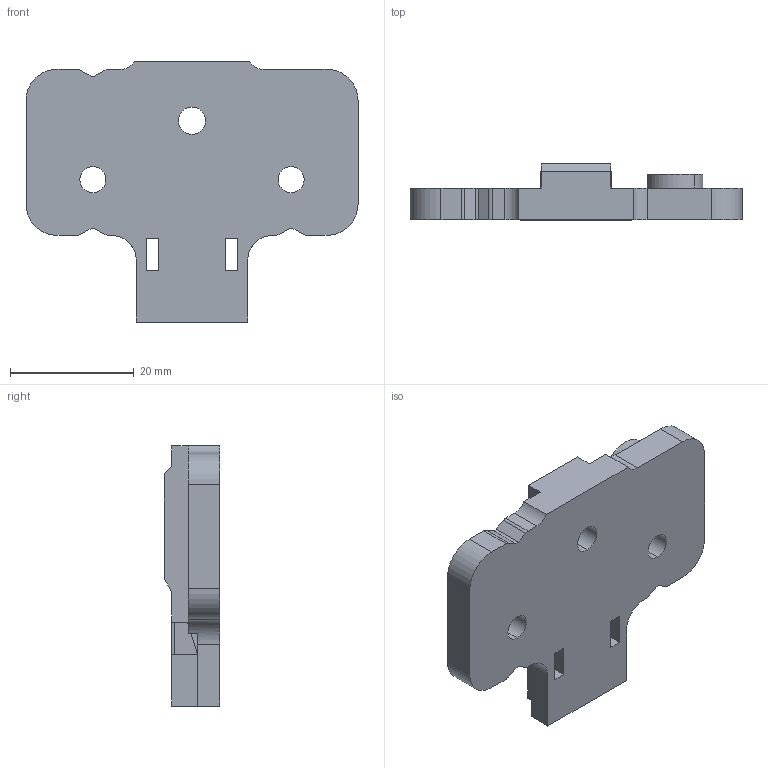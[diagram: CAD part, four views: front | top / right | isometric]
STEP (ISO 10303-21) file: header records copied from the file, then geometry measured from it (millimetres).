
FILE_DESCRIPTION (( 'STEP AP214' ), '1' );
FILE_NAME ('T00TQ.STEP', '2021-04-10T02:57:14', ( 'Windows 蚚誧' ), ( '' ), 'SwSTEP 2.0', 'SolidWorks 2018', '' );
FILE_SCHEMA (( 'AUTOMOTIVE_DESIGN' ));
Length unit declared in the file: millimetre
Products named in the file (1): T00TQ
Bounding box: 53.6 x 9 x 42 mm (x, y, z)
Volume: 9734.9 mm3; surface area: 5097.4 mm2
Topology: 1 solids, 3 shells, 89 faces, 252 edges, 168 vertices
Faces by surface type: plane 65, cylinder 24
Entity records: 3472 total; most frequent: CARTESIAN_POINT 522, ORIENTED_EDGE 504, DIRECTION 474, EDGE_CURVE 252, LINE 202, VECTOR 202, VERTEX_POINT 168, AXIS2_PLACEMENT_3D 136
